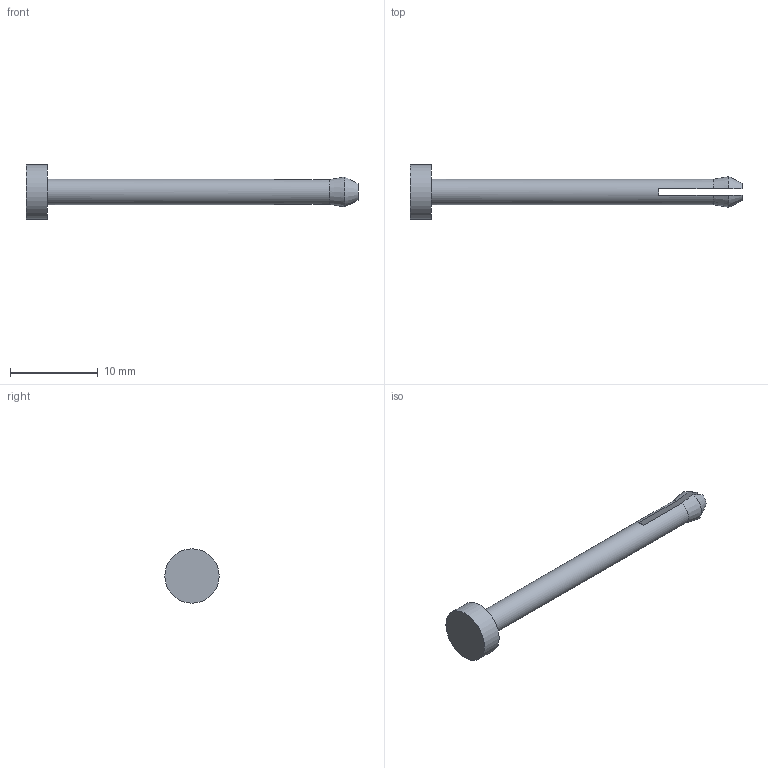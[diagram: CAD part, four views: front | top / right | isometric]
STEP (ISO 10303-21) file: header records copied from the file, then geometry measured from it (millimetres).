
FILE_DESCRIPTION(('FreeCAD Model'),'2;1');
FILE_NAME('Open CASCADE Shape Model','2026-10-18T19:16:07',('FreeCAD'),( 'FreeCAD'),'Open CASCADE STEP processor 7.9','FreeCAD','Unknown');
FILE_SCHEMA(('AUTOMOTIVE_DESIGN { 1 0 10303 214 1 1 1 1 }'));
Length unit declared in the file: millimetre
Products named in the file (1): Open CASCADE STEP translator 7.9 9
Bounding box: 37.9 x 6.2 x 6.2 mm (x, y, z)
Volume: 288.1 mm3; surface area: 469.7 mm2
Topology: 1 solids, 1 shells, 13 faces, 30 edges, 20 vertices
Faces by surface type: plane 7, cone 4, cylinder 2
Full cylindrical faces by diameter (mm): 2.9 x1, 6.2 x1
Entity records: 394 total; most frequent: DIRECTION 78, CARTESIAN_POINT 64, ORIENTED_EDGE 60, AXIS2_PLACEMENT_3D 34, EDGE_CURVE 30, VERTEX_POINT 20, FACE_BOUND 14, EDGE_LOOP 14
